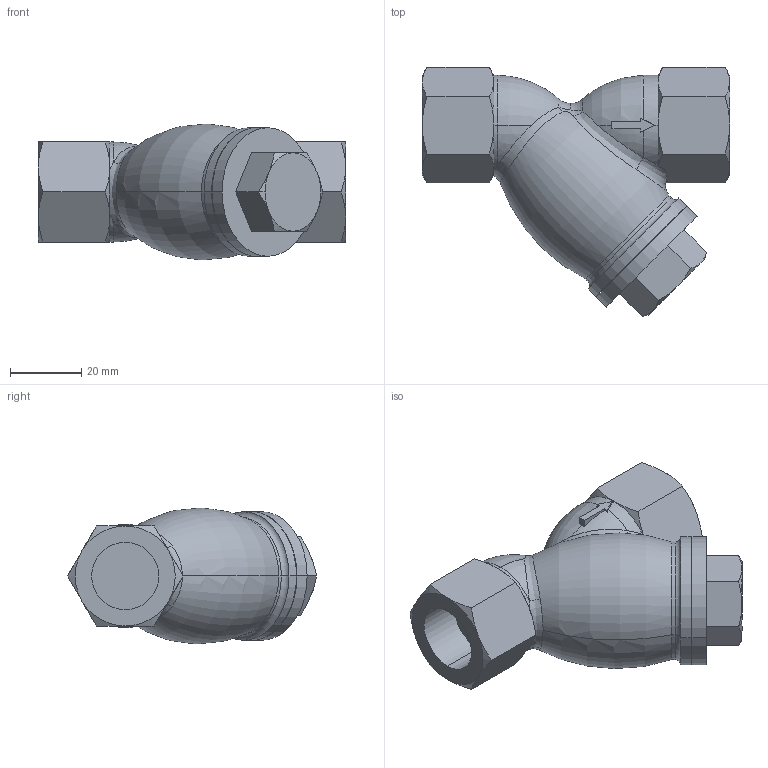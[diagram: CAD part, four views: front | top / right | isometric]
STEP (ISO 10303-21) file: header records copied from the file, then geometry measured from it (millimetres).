
FILE_DESCRIPTION (( 'STEP AP203' ), '1' );
FILE_NAME ('SY-6 20A.STEP', '2026-05-15T02:19:50', ( '' ), ( '' ), 'SwSTEP 2.0', 'SolidWorks 2026', '' );
FILE_SCHEMA (( 'CONFIG_CONTROL_DESIGN' ));
Length unit declared in the file: millimetre
Products named in the file (1): SY-6 20A
Bounding box: 86 x 69.71 x 37.9 mm (x, y, z)
Volume: 86154.7 mm3; surface area: 16003.8 mm2
Topology: 1 solids, 1 shells, 110 faces, 258 edges, 155 vertices
Faces by surface type: plane 42, cone 30, cylinder 18, torus 12, bspline 8
Entity records: 4509 total; most frequent: CARTESIAN_POINT 2092, ORIENTED_EDGE 516, DIRECTION 451, EDGE_CURVE 258, AXIS2_PLACEMENT_3D 191, VERTEX_POINT 155, EDGE_LOOP 115, ADVANCED_FACE 110
